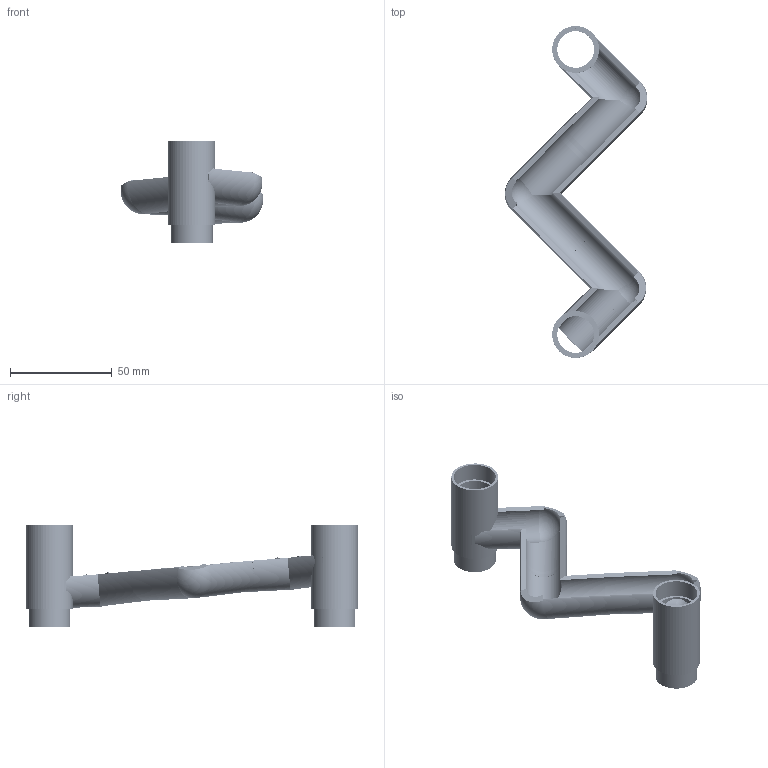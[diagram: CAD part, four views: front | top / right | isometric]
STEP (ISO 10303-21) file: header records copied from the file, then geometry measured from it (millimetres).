
FILE_DESCRIPTION((''),'2;1');
FILE_NAME('MR bridge wiggly', '2026-10-19T03:58:23', (''), (''), 'ImageToStl.com STEP Converter','', '');
FILE_SCHEMA(('AUTOMOTIVE_DESIGN_CC2'));
Length unit declared in the file: millimetre
Products named in the file (1): product0
Bounding box: 70.04 x 162.94 x 50 mm (x, y, z)
Topology: 0 solids, 46528 shells, 46528 faces, 139560 edges, 23248 vertices
Faces by surface type: plane 46528
Entity records: 1070139 total; most frequent: DIRECTION 232642, ORIENTED_EDGE 139584, EDGE_CURVE 139584, LINE 139584, VECTOR 139584, AXIS2_PLACEMENT_3D 46529, FACE_SURFACE 46528, PLANE 46528
